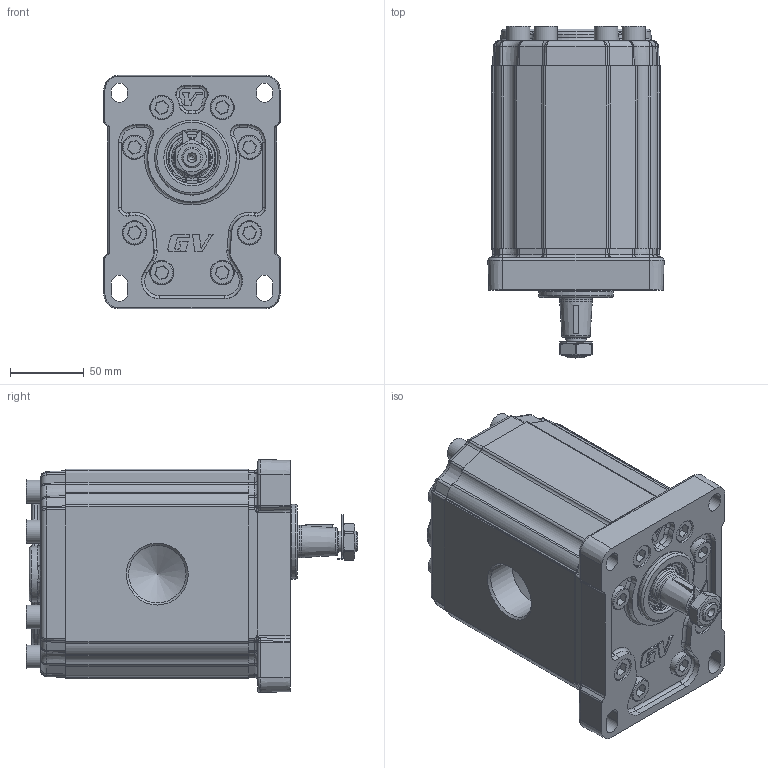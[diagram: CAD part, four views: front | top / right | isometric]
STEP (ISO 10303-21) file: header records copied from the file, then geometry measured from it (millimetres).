
FILE_DESCRIPTION(/* description */ ('Unknown'),/* implementation_level */ '2;1');
FILE_NAME(/* name */ 'G3P8901AFFA',/* time_stamp */ '2026-06-04T18:55:31+02:00',/* author */ ('Unknown'),/* organization */ ('Unknown'),/* preprocessor_version */ 'ST-DEVELOPER v16.7',/* originating_system */ 'Solid Edge',/* authorisation */ 'Unknown');
FILE_SCHEMA (('AUTOMOTIVE_DESIGN {1 0 10303 214 3 1 1}'));
Products named in the file (5): G3P8901AFFA; G3P01; 3A; G3FFH124; GP301-A
Assembly tree (4 placements, depth 2):
  G3P8901AFFA
    G3P01
    3A
    G3FFH124
    GP301-A
Bounding box: 119.5 x 225 x 158.1 mm (x, y, z)
Volume: 2513642.7 mm3; surface area: 226933.1 mm2
Topology: 4 solids, 5 shells, 2699 faces, 9068 edges, 5641 vertices
Faces by surface type: cylinder 1458, plane 917, cone 126, bspline 102, torus 96
Full cylindrical faces by diameter (mm): 2 x2, 6 x2, 10 x16, 10.5 x16, 14 x2, 15.8 x16, 16 x16, 16.5 x8, 17 x8, 22 x1, 24.98 x1, 25 x2, 25.968 x1, 28.16 x1, 31 x1, 31.293 x1, 32.742 x1, 34.956 x1, 35 x1, 35.2 x1, 37 x1, 38.952 x2, 50.8 x1
Entity records: 132420 total; most frequent: CARTESIAN_POINT 36618, ORIENTED_EDGE 17604, DIRECTION 15232, EDGE_CURVE 8802, AXIS2_PLACEMENT_3D 5761, VERTEX_POINT 5567, LINE 3710, VECTOR 3710
